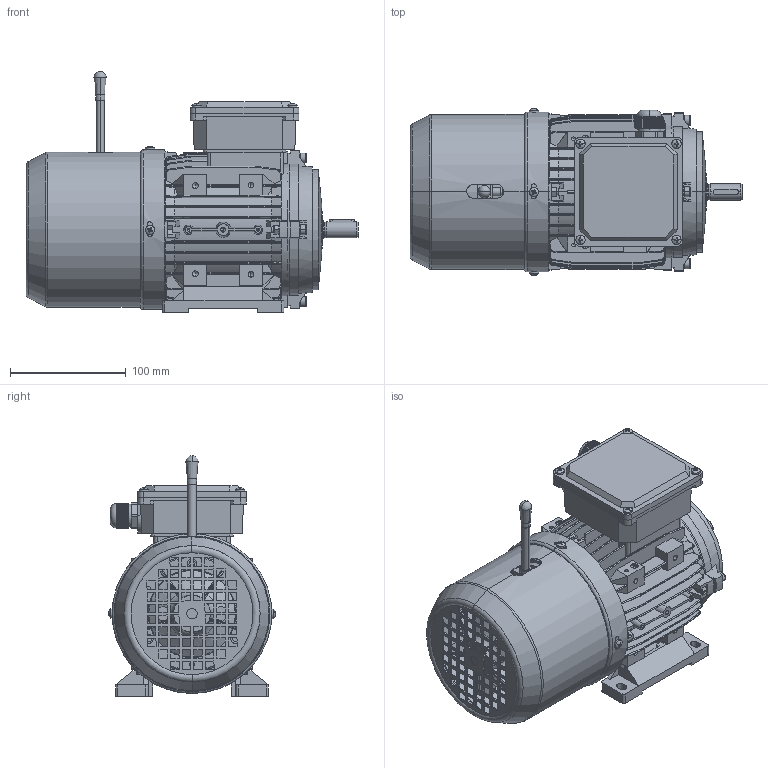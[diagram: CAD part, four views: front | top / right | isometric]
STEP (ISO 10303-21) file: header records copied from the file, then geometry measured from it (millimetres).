
FILE_DESCRIPTION (( 'STEP AP214' ), '1' );
FILE_NAME ('BCL0025.07C603.11.STEP', '2020-04-22T15:56:54', ( '' ), ( '' ), 'SwSTEP 2.0', 'SolidWorks 2019', '' );
FILE_SCHEMA (( 'AUTOMOTIVE_DESIGN' ));
Length unit declared in the file: millimetre
Products named in the file (1): BCL0025.07C603.11
Bounding box: 286.88 x 144.11 x 208.13 mm (x, y, z)
Volume: 920236.3 mm3; surface area: 554344.8 mm2
Topology: 29 solids, 29 shells, 4110 faces, 10983 edges, 6965 vertices
Faces by surface type: plane 2241, cylinder 1228, cone 299, bspline 252, torus 64, sphere 26
Entity records: 146077 total; most frequent: CARTESIAN_POINT 46451, ORIENTED_EDGE 21810, DIRECTION 19291, EDGE_CURVE 10905, VERTEX_POINT 6965, LINE 6435, VECTOR 6435, AXIS2_PLACEMENT_3D 6428
